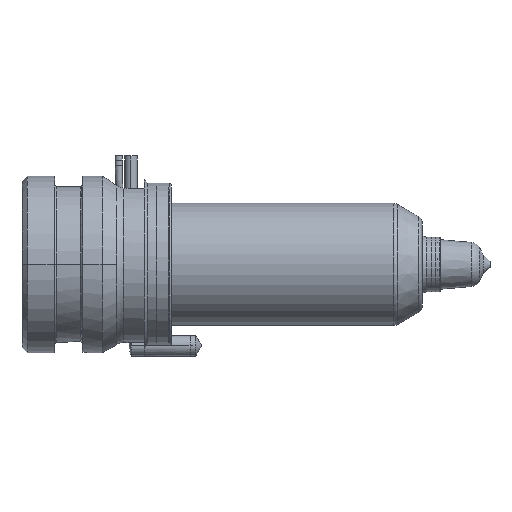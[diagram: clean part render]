
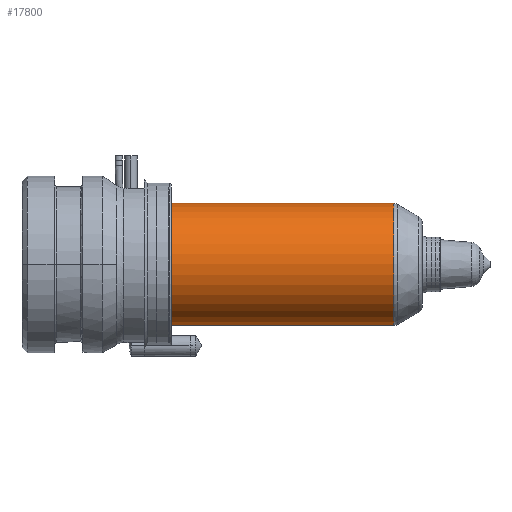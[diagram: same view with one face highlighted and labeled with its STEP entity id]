
A CAD part, left-side view. The second image highlights one B-rep face of the part: STEP entity #17800.
In plain terms, the highlighted cylindrical face has radius 9 mm (diameter 18 mm), a partial arc.
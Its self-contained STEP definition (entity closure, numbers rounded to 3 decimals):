
#17157=CARTESIAN_POINT('',(0.,-54.8,0.));
#17158=DIRECTION('',(0.,-1.,0.));
#17159=DIRECTION('',(0.,0.,1.));
#17160=AXIS2_PLACEMENT_3D('',#17157,#17158,#17159);
#17165=CARTESIAN_POINT('',(0.,-22.,0.));
#17166=DIRECTION('',(0.,1.,0.));
#17167=DIRECTION('',(0.,0.,-1.));
#17168=AXIS2_PLACEMENT_3D('',#17165,#17166,#17167);
#17173=DIRECTION('',(0.,1.,0.));
#17174=VECTOR('',#17173,32.8);
#17175=CARTESIAN_POINT('',(0.,-54.8,9.));
#17176=LINE('',#17175,#17174);
#17188=DIRECTION('',(0.,1.,0.));
#17189=VECTOR('',#17188,32.8);
#17190=CARTESIAN_POINT('',(0.,-54.8,-9.));
#17191=LINE('',#17190,#17189);
#17383=CARTESIAN_POINT('',(0.,-54.8,9.));
#17384=CARTESIAN_POINT('',(0.,-22.,9.));
#17385=VERTEX_POINT('',#17383);
#17386=VERTEX_POINT('',#17384);
#17387=CARTESIAN_POINT('',(0.,-54.8,-9.));
#17388=CARTESIAN_POINT('',(0.,-22.,-9.));
#17389=VERTEX_POINT('',#17387);
#17390=VERTEX_POINT('',#17388);
#17786=CARTESIAN_POINT('',(0.,-15.45,0.));
#17787=DIRECTION('',(0.,-1.,0.));
#17788=DIRECTION('',(0.,0.,1.));
#17789=AXIS2_PLACEMENT_3D('',#17786,#17787,#17788);
#17790=CYLINDRICAL_SURFACE('',#17789,9.);
#17792=ORIENTED_EDGE('',*,*,#17791,.F.);
#17793=ORIENTED_EDGE('',*,*,#17781,.T.);
#17795=ORIENTED_EDGE('',*,*,#17794,.T.);
#17797=ORIENTED_EDGE('',*,*,#17796,.T.);
#17798=EDGE_LOOP('',(#17792,#17793,#17795,#17797));
#17799=FACE_OUTER_BOUND('',#17798,.F.);
#17800=ADVANCED_FACE('',(#17799),#17790,.T.);
#17161=CIRCLE('',#17160,9.);
#17169=CIRCLE('',#17168,9.);
#17781=EDGE_CURVE('',#17385,#17389,#17161,.T.);
#17791=EDGE_CURVE('',#17385,#17386,#17176,.T.);
#17794=EDGE_CURVE('',#17389,#17390,#17191,.T.);
#17796=EDGE_CURVE('',#17390,#17386,#17169,.T.);
